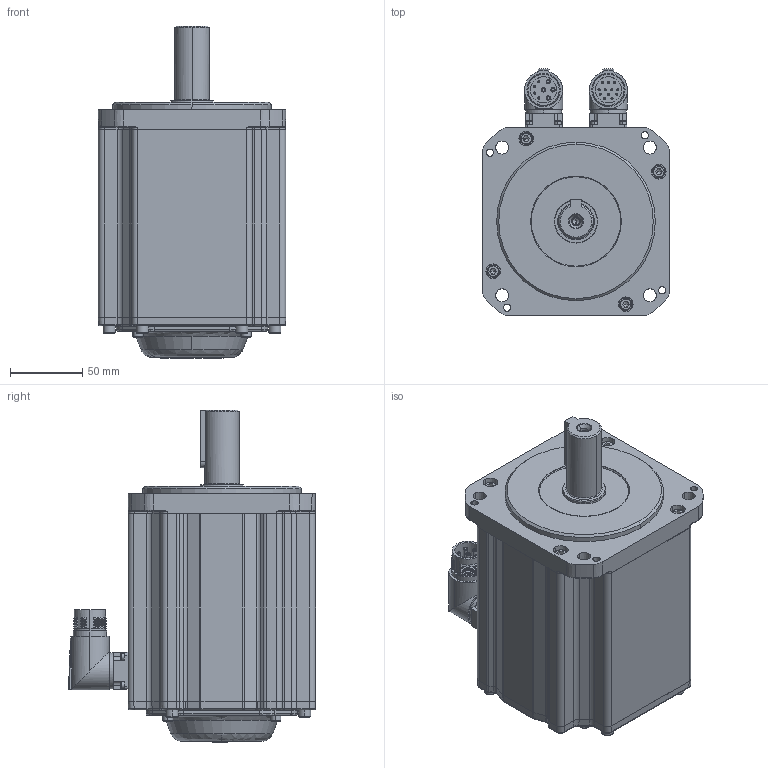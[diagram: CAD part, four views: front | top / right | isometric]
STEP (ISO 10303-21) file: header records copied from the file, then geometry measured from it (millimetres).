
FILE_DESCRIPTION (( 'STEP AP203' ), '1' );
FILE_NAME ('MC20-130-3M20-N102-1¡õPK-NNNN.STEP', '2025-05-04T14:08:20', ( '' ), ( '' ), 'SwSTEP 2.0', 'SolidWorks 2014', '' );
FILE_SCHEMA (( 'CONFIG_CONTROL_DESIGN' ));
Length unit declared in the file: millimetre
Products named in the file (1): MC20-130-3M20-N102-1¡õPK-NNNN
Bounding box: 130 x 171.35 x 230.3 mm (x, y, z)
Volume: 2519697.9 mm3; surface area: 273683.3 mm2
Topology: 28 solids, 28 shells, 2024 faces, 4803 edges, 2863 vertices
Faces by surface type: plane 735, cylinder 568, cone 357, bspline 204, torus 148, sphere 12
Entity records: 62226 total; most frequent: CARTESIAN_POINT 16865, DIRECTION 9530, ORIENTED_EDGE 9382, EDGE_CURVE 4691, AXIS2_PLACEMENT_3D 3694, VERTEX_POINT 2863, EDGE_LOOP 2270, LINE 2142
